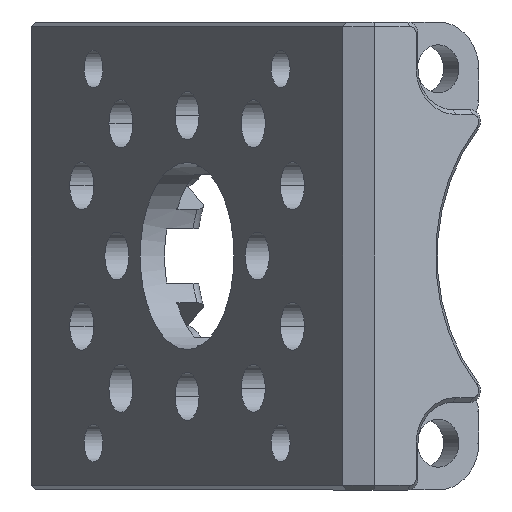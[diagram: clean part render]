
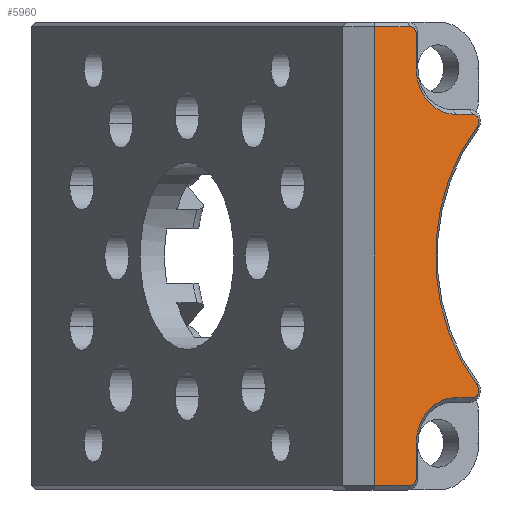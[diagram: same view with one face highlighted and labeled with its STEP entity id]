
A CAD part, front view. The second image highlights one B-rep face of the part: STEP entity #5960.
In plain terms, the highlighted planar face has unit normal (0.5, -0.866, 0) as drawn and (0, 0, 1) by its records, which use the part's own axes.
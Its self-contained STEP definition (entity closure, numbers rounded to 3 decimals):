
#438 = AXIS2_PLACEMENT_3D ( 'NONE', #6258, #1893, #6054 ) ;
#452 = ORIENTED_EDGE ( 'NONE', *, *, #2527, .T. ) ;
#800 = CARTESIAN_POINT ( 'NONE',  ( 5.75, -3.138, 14.3 ) ) ;
#1027 = CARTESIAN_POINT ( 'NONE',  ( 9.5, 0.25, 14.3 ) ) ;
#1047 = ORIENTED_EDGE ( 'NONE', *, *, #6544, .T. ) ;
#1120 = VERTEX_POINT ( 'NONE', #6698 ) ;
#1142 = AXIS2_PLACEMENT_3D ( 'NONE', #3598, #7820, #4706 ) ;
#1159 = CIRCLE ( 'NONE', #8672, 0.3 ) ;
#1282 = DIRECTION ( 'NONE',  ( 0., 0., 1. ) ) ;
#1388 = LINE ( 'NONE', #5608, #13023 ) ;
#1406 = DIRECTION ( 'NONE',  ( 0., -1., 0. ) ) ;
#1410 = CARTESIAN_POINT ( 'NONE',  ( 9.5, -0.05, 14.3 ) ) ;
#1506 = CIRCLE ( 'NONE', #6157, 0.3 ) ;
#1893 = DIRECTION ( 'NONE',  ( 0., 0., -1. ) ) ;
#1929 = VERTEX_POINT ( 'NONE', #12258 ) ;
#2130 = CARTESIAN_POINT ( 'NONE',  ( -8., -0.05, 14.3 ) ) ;
#2131 = CARTESIAN_POINT ( 'NONE',  ( 5.554, -3.065, 14.3 ) ) ;
#2527 = EDGE_CURVE ( 'NONE', #1120, #3944, #3027, .T. ) ;
#2702 = EDGE_CURVE ( 'NONE', #4461, #2834, #6417, .T. ) ;
#2724 = ORIENTED_EDGE ( 'NONE', *, *, #13223, .T. ) ;
#2834 = VERTEX_POINT ( 'NONE', #12891 ) ;
#3027 = LINE ( 'NONE', #10363, #5982 ) ;
#3045 = CARTESIAN_POINT ( 'NONE',  ( 0., 0., 14.3 ) ) ;
#3102 = DIRECTION ( 'NONE',  ( 0., -1., 0. ) ) ;
#3119 = VECTOR ( 'NONE', #10681, 1000. ) ;
#3143 = CARTESIAN_POINT ( 'NONE',  ( 5.75, -2.838, 14.3 ) ) ;
#3213 = DIRECTION ( 'NONE',  ( 0., 0., 1. ) ) ;
#3345 = LINE ( 'NONE', #7694, #9046 ) ;
#3468 = VERTEX_POINT ( 'NONE', #3658 ) ;
#3496 = EDGE_CURVE ( 'NONE', #9734, #1929, #5555, .T. ) ;
#3542 = CIRCLE ( 'NONE', #7966, 0.3 ) ;
#3598 = CARTESIAN_POINT ( 'NONE',  ( -8., -2., 14.3 ) ) ;
#3641 = ORIENTED_EDGE ( 'NONE', *, *, #6414, .T. ) ;
#3658 = CARTESIAN_POINT ( 'NONE',  ( -5.75, -3.138, 14.3 ) ) ;
#3892 = VERTEX_POINT ( 'NONE', #7658 ) ;
#3944 = VERTEX_POINT ( 'NONE', #11392 ) ;
#4040 = AXIS2_PLACEMENT_3D ( 'NONE', #3045, #11219, #7272 ) ;
#4159 = ORIENTED_EDGE ( 'NONE', *, *, #3496, .T. ) ;
#4325 = CARTESIAN_POINT ( 'NONE',  ( 5.75, -2.838, 14.3 ) ) ;
#4403 = VECTOR ( 'NONE', #10831, 1000. ) ;
#4461 = VERTEX_POINT ( 'NONE', #8262 ) ;
#4706 = DIRECTION ( 'NONE',  ( 0., 1., 0. ) ) ;
#4937 = CARTESIAN_POINT ( 'NONE',  ( -6.05, -2.838, 14.3 ) ) ;
#5050 = EDGE_CURVE ( 'NONE', #2834, #8607, #9760, .T. ) ;
#5135 = ORIENTED_EDGE ( 'NONE', *, *, #7823, .T. ) ;
#5314 = CARTESIAN_POINT ( 'NONE',  ( -9.5, -0.05, 14.3 ) ) ;
#5356 = DIRECTION ( 'NONE',  ( 0., 0., 1. ) ) ;
#5452 = ORIENTED_EDGE ( 'NONE', *, *, #2702, .T. ) ;
#5555 = CIRCLE ( 'NONE', #1142, 1.95 ) ;
#5556 = CARTESIAN_POINT ( 'NONE',  ( -9.5, -0.05, 14.3 ) ) ;
#5608 = CARTESIAN_POINT ( 'NONE',  ( -6.05, -2., 14.3 ) ) ;
#5660 = CARTESIAN_POINT ( 'NONE',  ( 6.05, -2.838, 14.3 ) ) ;
#5740 = ORIENTED_EDGE ( 'NONE', *, *, #10800, .T. ) ;
#5744 = AXIS2_PLACEMENT_3D ( 'NONE', #7935, #8919, #10855 ) ;
#5944 = DIRECTION ( 'NONE',  ( 0., 0., 1. ) ) ;
#5960 = ADVANCED_FACE ( 'NONE', ( #7004 ), #12518, .T. ) ;
#5982 = VECTOR ( 'NONE', #7250, 1000. ) ;
#6045 = ORIENTED_EDGE ( 'NONE', *, *, #6945, .T. ) ;
#6054 = DIRECTION ( 'NONE',  ( -1., 0., 0. ) ) ;
#6122 = CARTESIAN_POINT ( 'NONE',  ( -9.8, 0.25, 14.3 ) ) ;
#6157 = AXIS2_PLACEMENT_3D ( 'NONE', #1027, #7401, #3102 ) ;
#6258 = CARTESIAN_POINT ( 'NONE',  ( 8., -2., 14.3 ) ) ;
#6414 = EDGE_CURVE ( 'NONE', #9325, #3468, #13212, .T. ) ;
#6417 = CIRCLE ( 'NONE', #438, 1.95 ) ;
#6462 = DIRECTION ( 'NONE',  ( 1., 0., 0. ) ) ;
#6523 = VERTEX_POINT ( 'NONE', #5314 ) ;
#6544 = EDGE_CURVE ( 'NONE', #8607, #1120, #1506, .T. ) ;
#6563 = VERTEX_POINT ( 'NONE', #2131 ) ;
#6645 = CARTESIAN_POINT ( 'NONE',  ( 8., -0.05, 14.3 ) ) ;
#6698 = CARTESIAN_POINT ( 'NONE',  ( 9.8, 0.25, 14.3 ) ) ;
#6945 = EDGE_CURVE ( 'NONE', #3944, #8367, #10960, .T. ) ;
#7000 = EDGE_LOOP ( 'NONE', ( #6045, #10958, #7972, #7087, #4159, #8267, #3641, #2724, #5135, #7554, #9157, #5740, #5452, #9427, #1047, #452 ) ) ;
#7004 = FACE_OUTER_BOUND ( 'NONE', #7000, .T. ) ;
#7087 = ORIENTED_EDGE ( 'NONE', *, *, #10759, .T. ) ;
#7174 = CARTESIAN_POINT ( 'NONE',  ( -9.8, 2., 14.3 ) ) ;
#7250 = DIRECTION ( 'NONE',  ( 0., 1., 0. ) ) ;
#7272 = DIRECTION ( 'NONE',  ( 1., 0., 0. ) ) ;
#7302 = AXIS2_PLACEMENT_3D ( 'NONE', #4325, #5356, #9438 ) ;
#7401 = DIRECTION ( 'NONE',  ( 0., 0., 1. ) ) ;
#7406 = EDGE_CURVE ( 'NONE', #8367, #8335, #3345, .T. ) ;
#7490 = LINE ( 'NONE', #11708, #3119 ) ;
#7554 = ORIENTED_EDGE ( 'NONE', *, *, #8485, .T. ) ;
#7632 = LINE ( 'NONE', #5556, #9089 ) ;
#7658 = CARTESIAN_POINT ( 'NONE',  ( -5.554, -3.065, 14.3 ) ) ;
#7677 = DIRECTION ( 'NONE',  ( 1., 0., 0. ) ) ;
#7694 = CARTESIAN_POINT ( 'NONE',  ( -9.8, 2., 14.3 ) ) ;
#7704 = AXIS2_PLACEMENT_3D ( 'NONE', #11204, #5944, #12370 ) ;
#7820 = DIRECTION ( 'NONE',  ( 0., 0., -1. ) ) ;
#7822 = DIRECTION ( 'NONE',  ( 0., -1., 0. ) ) ;
#7823 = EDGE_CURVE ( 'NONE', #3892, #6563, #8380, .T. ) ;
#7853 = DIRECTION ( 'NONE',  ( -1., 0., 0. ) ) ;
#7935 = CARTESIAN_POINT ( 'NONE',  ( 0., -9.5, 14.3 ) ) ;
#7966 = AXIS2_PLACEMENT_3D ( 'NONE', #3143, #3213, #8536 ) ;
#7972 = ORIENTED_EDGE ( 'NONE', *, *, #11574, .T. ) ;
#8262 = CARTESIAN_POINT ( 'NONE',  ( 6.05, -2., 14.3 ) ) ;
#8267 = ORIENTED_EDGE ( 'NONE', *, *, #9457, .T. ) ;
#8335 = VERTEX_POINT ( 'NONE', #6122 ) ;
#8367 = VERTEX_POINT ( 'NONE', #7174 ) ;
#8380 = CIRCLE ( 'NONE', #5744, 8.5 ) ;
#8460 = CIRCLE ( 'NONE', #10245, 0.3 ) ;
#8485 = EDGE_CURVE ( 'NONE', #6563, #13432, #3542, .T. ) ;
#8507 = EDGE_CURVE ( 'NONE', #13432, #12866, #9513, .T. ) ;
#8536 = DIRECTION ( 'NONE',  ( -0.653, -0.757, 0. ) ) ;
#8607 = VERTEX_POINT ( 'NONE', #1410 ) ;
#8672 = AXIS2_PLACEMENT_3D ( 'NONE', #8696, #12912, #7853 ) ;
#8696 = CARTESIAN_POINT ( 'NONE',  ( -9.5, 0.25, 14.3 ) ) ;
#8919 = DIRECTION ( 'NONE',  ( 0., 0., -1. ) ) ;
#9046 = VECTOR ( 'NONE', #1406, 1000. ) ;
#9089 = VECTOR ( 'NONE', #6462, 1000. ) ;
#9157 = ORIENTED_EDGE ( 'NONE', *, *, #8507, .T. ) ;
#9325 = VERTEX_POINT ( 'NONE', #4937 ) ;
#9427 = ORIENTED_EDGE ( 'NONE', *, *, #5050, .T. ) ;
#9438 = DIRECTION ( 'NONE',  ( -0.653, -0.757, 0. ) ) ;
#9457 = EDGE_CURVE ( 'NONE', #1929, #9325, #1388, .T. ) ;
#9513 = CIRCLE ( 'NONE', #7302, 0.3 ) ;
#9734 = VERTEX_POINT ( 'NONE', #2130 ) ;
#9760 = LINE ( 'NONE', #6645, #10428 ) ;
#10245 = AXIS2_PLACEMENT_3D ( 'NONE', #10911, #1282, #10763 ) ;
#10363 = CARTESIAN_POINT ( 'NONE',  ( 9.8, 0.25, 14.3 ) ) ;
#10428 = VECTOR ( 'NONE', #7677, 1000. ) ;
#10681 = DIRECTION ( 'NONE',  ( 0., 1., 0. ) ) ;
#10759 = EDGE_CURVE ( 'NONE', #6523, #9734, #7632, .T. ) ;
#10763 = DIRECTION ( 'NONE',  ( -1., 0., 0. ) ) ;
#10800 = EDGE_CURVE ( 'NONE', #12866, #4461, #7490, .T. ) ;
#10831 = DIRECTION ( 'NONE',  ( -1., 0., 0. ) ) ;
#10855 = DIRECTION ( 'NONE',  ( -0.653, 0.757, 0. ) ) ;
#10911 = CARTESIAN_POINT ( 'NONE',  ( -5.75, -2.838, 14.3 ) ) ;
#10958 = ORIENTED_EDGE ( 'NONE', *, *, #7406, .T. ) ;
#10960 = LINE ( 'NONE', #11026, #4403 ) ;
#11026 = CARTESIAN_POINT ( 'NONE',  ( 9.8, 2., 14.3 ) ) ;
#11204 = CARTESIAN_POINT ( 'NONE',  ( -5.75, -2.838, 14.3 ) ) ;
#11219 = DIRECTION ( 'NONE',  ( 0., 0., 1. ) ) ;
#11392 = CARTESIAN_POINT ( 'NONE',  ( 9.8, 2., 14.3 ) ) ;
#11574 = EDGE_CURVE ( 'NONE', #8335, #6523, #1159, .T. ) ;
#11708 = CARTESIAN_POINT ( 'NONE',  ( 6.05, -2.838, 14.3 ) ) ;
#12258 = CARTESIAN_POINT ( 'NONE',  ( -6.05, -2., 14.3 ) ) ;
#12370 = DIRECTION ( 'NONE',  ( -1., 0., 0. ) ) ;
#12518 = PLANE ( 'NONE',  #4040 ) ;
#12866 = VERTEX_POINT ( 'NONE', #5660 ) ;
#12891 = CARTESIAN_POINT ( 'NONE',  ( 8., -0.05, 14.3 ) ) ;
#12912 = DIRECTION ( 'NONE',  ( 0., 0., 1. ) ) ;
#13023 = VECTOR ( 'NONE', #7822, 1000. ) ;
#13212 = CIRCLE ( 'NONE', #7704, 0.3 ) ;
#13223 = EDGE_CURVE ( 'NONE', #3468, #3892, #8460, .T. ) ;
#13432 = VERTEX_POINT ( 'NONE', #800 ) ;
